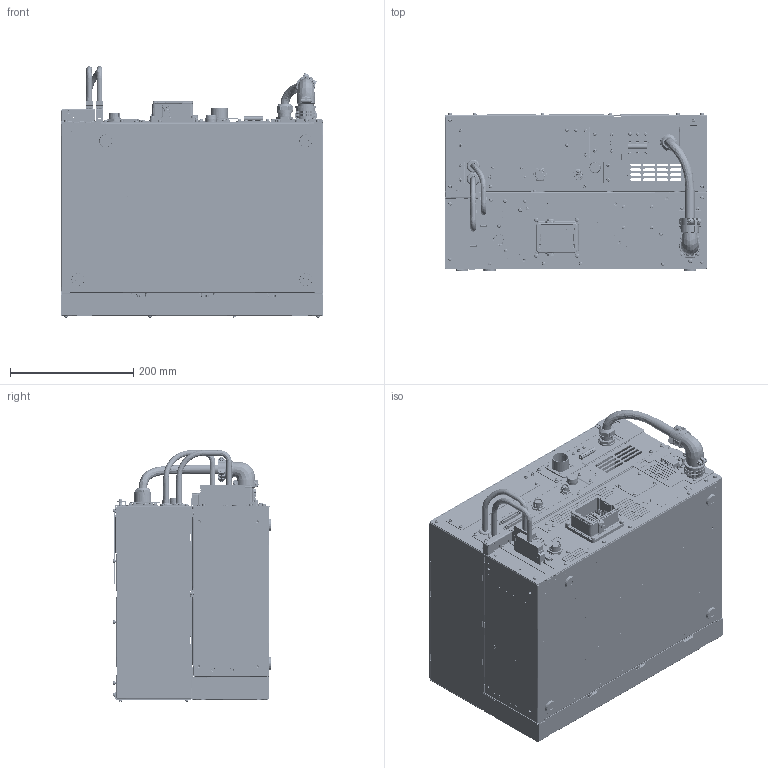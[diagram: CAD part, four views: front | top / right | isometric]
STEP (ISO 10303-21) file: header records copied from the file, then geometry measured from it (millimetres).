
FILE_DESCRIPTION (( 'STEP AP214' ), '1' );
FILE_NAME ('350050-102 YRC1000micro HC10DT.STEP', '2023-10-19T09:19:34', ( '' ), ( '' ), 'SwSTEP 2.0', 'SolidWorks 2022', '' );
FILE_SCHEMA (( 'AUTOMOTIVE_DESIGN' ));
Length unit declared in the file: millimetre
Products named in the file (62): MANIFOLD_SOLID_BREP_503; MANIFOLD_SOLID_BREP_496; 400-103-108_R; 10368-A200-00_ASM; C-30-SG-14A-EP-UL; MANIFOLD_SOLID_BREP_504; LF10WBRB-12S; HB1200237_ASM; NJ4286; 10268-0210XX; ASSY-NJ4014-1; MANIFOLD_SOLID_BREP_494; NJ3869-N; HB1401234; 350050-102 YRC1000micro HC10DT; M3XL8_P4SCREW; DFB-M4-6S; MANIFOLD_SOLID_BREP_493; HB1401232; ACIN_CABLE; M3XL10_P4SCREW; HB1401233; M3XL6_P3SCREW; A0P77D68I5EV_ASM; M5X10L_P3SCREW; LF13WBRB-20S; M3XL8_P3SCREW; M4X8L_P3SCREW; MANIFOLD_SOLID_BREP_505; HB1302133; DFB-M4-9S; 8242010 Cable clamp (DMS3057-10A); ASSY-PAM; HB1302131_ASM; MANIFOLD_SOLID_BREP_497; HB1401235; CABLE_50_FOR_H55; HB1271031_ASM_Nedskalad; 10250-0210XX; CABLE_68_FOR_H55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
Assembly tree (139 placements, depth 4):
  350050-102 YRC1000micro HC10DT
    HB1271031_ASM_Nedskalad
      HB1200237_ASM
        HB1200237
        DFB-M4-9S  x4
        DFB-M4-6S  x10
      HB1302131_ASM
        HB1302131
        DFB-M4-6S  x4
      M3XL6_P4SCREW  x32
      HB1302132_ASM
        HB1302132
        DFB-M4-9S
      M5X10L_P3SCREW  x2
      HB1401232
      HB1401233
      HB1401234
      C-30-SG-14A-EP-UL  x2
      10250-0210XX
      10268-0210XX
      M2_6XL10_P4  x4
      LF13WBRB-20S
      LF10WBRB-12S
      3455LF1-020
      CE05-2A18-10PD-B_R
      2210-S231-P1M1-H0-16A_AF0
      OA-W1613
      M3XL10_P4SCREW  x4
      NJ1821-1  x3
      M3XL6_P3SCREW  x2
      HB1302133
      M3XL8_P4SCREW  x15
      NJ1819-1
      NJ4286
      NJ3869-N
      NJ4015_78X20
    YRC1000MICRO_V01
    400-103-108_R
    HB1302092
    M3XL8_P3SCREW  x4
    HB1401235
    M3XL6_P4SCREW
    HB1401200
    M3XL8_P4SCREW  x2
    CABLE_50_FOR_H55
    CABLE_68_FOR_H55
    10350-A200-00_ASM
      A0P77D68I5EV_ASM
        MANIFOLD_SOLID_BREP_493
        MANIFOLD_SOLID_BREP_494
        MANIFOLD_SOLID_BREP_495
        MANIFOLD_SOLID_BREP_496
        MANIFOLD_SOLID_BREP_497
    10368-A200-00_ASM
      A0P77D68I5EH_ASM
        MANIFOLD_SOLID_BREP_501
        MANIFOLD_SOLID_BREP_502
        MANIFOLD_SOLID_BREP_503
        MANIFOLD_SOLID_BREP_504
        MANIFOLD_SOLID_BREP_505
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Bounding box: 425.25 x 257.44 x 408.24 mm (x, y, z)
Volume: 567489 mm3; surface area: 2850927.5 mm2
Topology: 133 solids, 6161 shells, 19059 faces, 65624 edges, 53072 vertices
Faces by surface type: plane 9543, bspline 7409, cylinder 1743, torus 338, cone 22, sphere 4
Full cylindrical faces by diameter (mm): 2.85 x4, 3.1 x4, 3.2 x2, 3.6 x2, 3.65 x2, 3.79 x4, 3.9 x4, 4.3 x4, 7 x2, 7.2 x2, 7.5 x2, 14.27 x1, 15.62 x1, 15.8 x1, 17.45 x1, 19.33 x1, 19.4 x1, 19.6 x1, 20.96 x1, 22.58 x1, 23.5 x2, 23.62 x1, 24.03 x4, 25.14 x2, 25.36 x1, 25.43 x1, 26 x1, 27.02 x1, 27.83 x1, 29.46 x1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
Entity records: 1132390 total; most frequent: CARTESIAN_POINT 685363, ORIENTED_EDGE 88585, DIRECTION 64954, EDGE_CURVE 59043, VERTEX_POINT 49041, LINE 31978, VECTOR 31978, B_SPLINE_CURVE_WITH_KNOTS 20397
